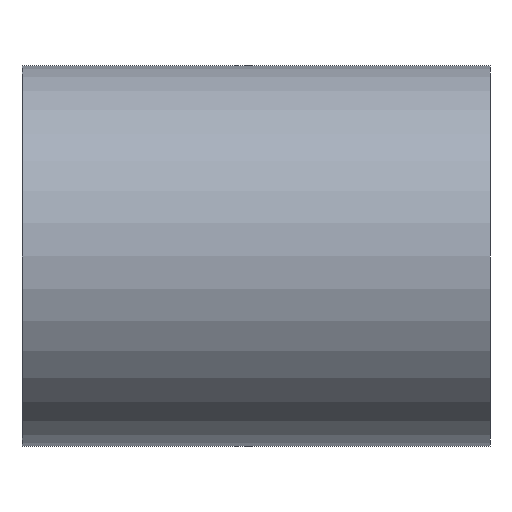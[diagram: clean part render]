
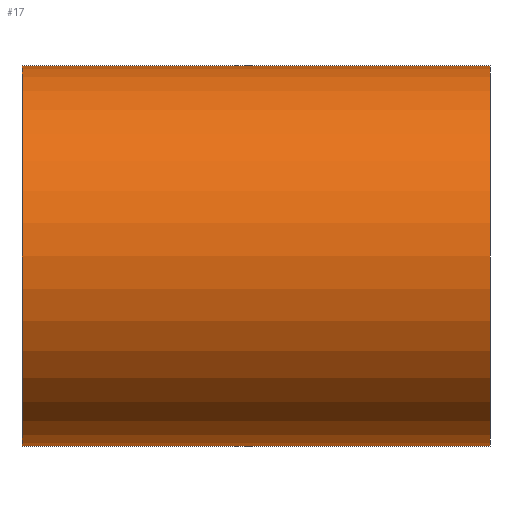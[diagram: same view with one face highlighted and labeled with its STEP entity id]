
A CAD part, front view. The second image highlights one B-rep face of the part: STEP entity #17.
In plain terms, the highlighted cylindrical face has radius 1.3 mm (diameter 2.6 mm), a full revolution.
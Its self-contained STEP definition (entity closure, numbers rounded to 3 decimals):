
#17 = ADVANCED_FACE('',(#18),#45,.T.);
#18 = FACE_BOUND('',#19,.T.);
#19 = EDGE_LOOP('',(#20,#29,#37,#44));
#20 = ORIENTED_EDGE('',*,*,#21,.F.);
#21 = EDGE_CURVE('',#22,#22,#24,.T.);
#22 = VERTEX_POINT('',#23);
#23 = CARTESIAN_POINT('',(-51.8,26.75,29.7));
#24 = CIRCLE('',#25,1.3);
#25 = AXIS2_PLACEMENT_3D('',#26,#27,#28);
#26 = CARTESIAN_POINT('',(-51.8,26.75,31.));
#27 = DIRECTION('',(-1.,0.,0.));
#28 = DIRECTION('',(0.,0.,-1.));
#29 = ORIENTED_EDGE('',*,*,#30,.F.);
#30 = EDGE_CURVE('',#31,#22,#33,.T.);
#31 = VERTEX_POINT('',#32);
#32 = CARTESIAN_POINT('',(-48.6,26.75,29.7));
#33 = LINE('',#34,#35);
#34 = CARTESIAN_POINT('',(-48.6,26.75,29.7));
#35 = VECTOR('',#36,1.);
#36 = DIRECTION('',(-1.,0.,0.));
#37 = ORIENTED_EDGE('',*,*,#38,.T.);
#38 = EDGE_CURVE('',#31,#31,#39,.T.);
#39 = CIRCLE('',#40,1.3);
#40 = AXIS2_PLACEMENT_3D('',#41,#42,#43);
#41 = CARTESIAN_POINT('',(-48.6,26.75,31.));
#42 = DIRECTION('',(-1.,0.,0.));
#43 = DIRECTION('',(0.,0.,-1.));
#44 = ORIENTED_EDGE('',*,*,#30,.T.);
#45 = CYLINDRICAL_SURFACE('',#46,1.3);
#46 = AXIS2_PLACEMENT_3D('',#47,#48,#49);
#47 = CARTESIAN_POINT('',(-48.6,26.75,31.));
#48 = DIRECTION('',(-1.,0.,0.));
#49 = DIRECTION('',(0.,0.,-1.));
